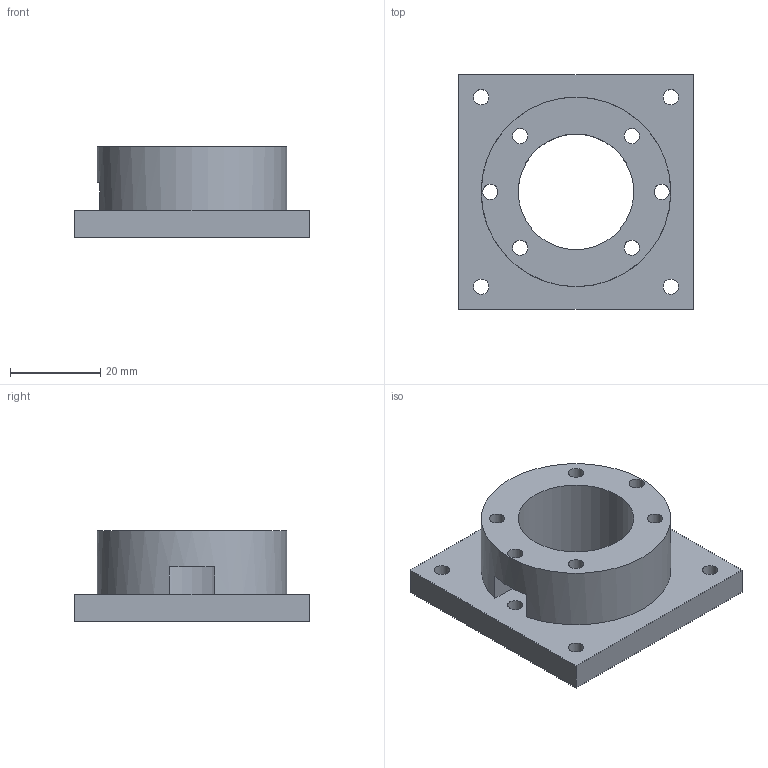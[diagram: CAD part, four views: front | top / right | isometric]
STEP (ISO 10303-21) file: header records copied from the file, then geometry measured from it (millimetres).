
FILE_DESCRIPTION(('Open CASCADE Model'),'2;1');
FILE_NAME('Open CASCADE Shape Model','2026-11-11T10:44:57',('Author'),( 'Open CASCADE'),'Open CASCADE STEP processor 7.9','Open CASCADE 7.9' ,'Unknown');
FILE_SCHEMA(('AUTOMOTIVE_DESIGN { 1 0 10303 214 1 1 1 1 }'));
Length unit declared in the file: millimetre
Products named in the file (1): Open CASCADE STEP translator 7.9 7
Bounding box: 52 x 52 x 20 mm (x, y, z)
Volume: 23572.9 mm3; surface area: 10504.4 mm2
Topology: 1 solids, 1 shells, 23 faces, 63 edges, 42 vertices
Faces by surface type: cylinder 13, plane 10
Full cylindrical faces by diameter (mm): 3.4 x11, 25.6 x1, 42 x1
Entity records: 1624 total; most frequent: DIRECTION 263, CARTESIAN_POINT 259, ORIENTED_EDGE 126, PCURVE 126, DEFINITIONAL_REPRESENTATION 126, LINE 125, VECTOR 125, EDGE_CURVE 63
